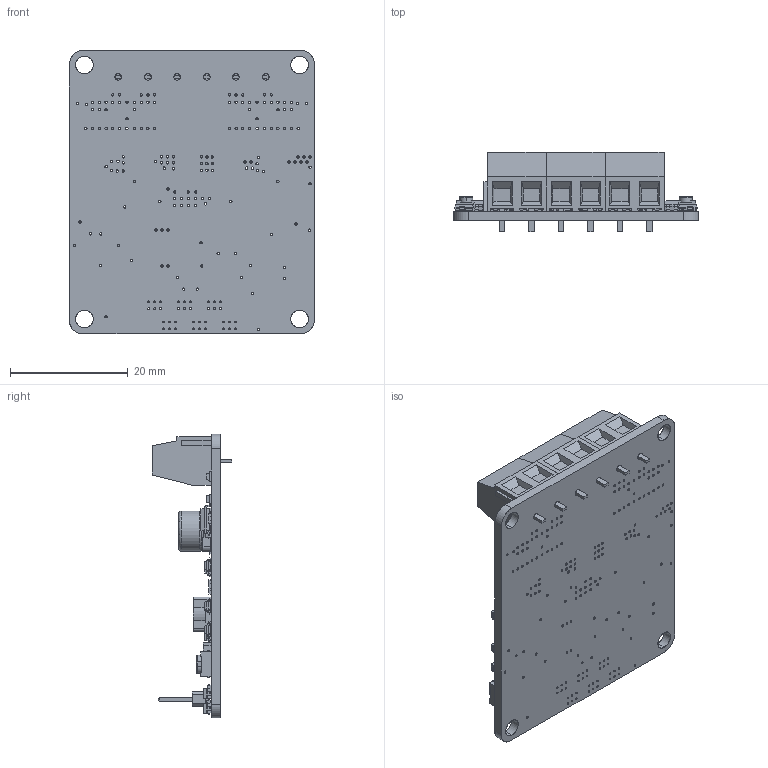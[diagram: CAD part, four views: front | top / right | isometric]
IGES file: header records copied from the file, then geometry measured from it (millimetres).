
Start section: SolidWorks IGES file using analytic representation for surfaces
Global section: file name: D:\Cytron\Technical\MDD3A - Dual Channel 3A DC Motor Driver\mdd3a\Mechanical\MDD3A.IGS; native system: SolidWorks 2015; preprocessor: SolidWorks 2015; author: DIANMIAO; date: 191107.122801; units: millimetre
Bounding box: 41.66 x 13.5 x 48.26 mm (x, y, z)
Surface area: 8908.8 mm2 (no closed solid volume)
Topology: 0 solids, 0 shells, 4099 faces, 30900 edges, 30900 vertices
Faces by surface type: bspline 3059, revolution 1040
